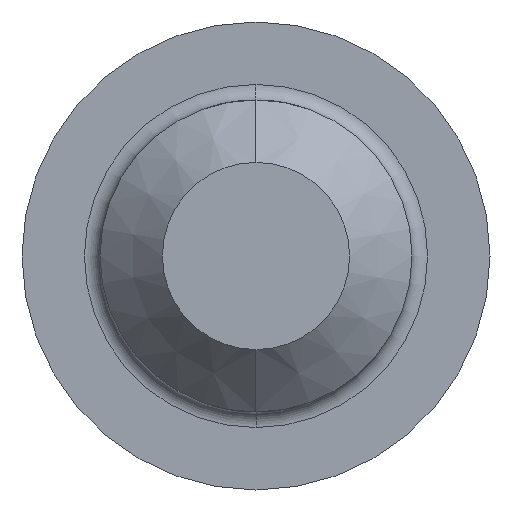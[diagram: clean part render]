
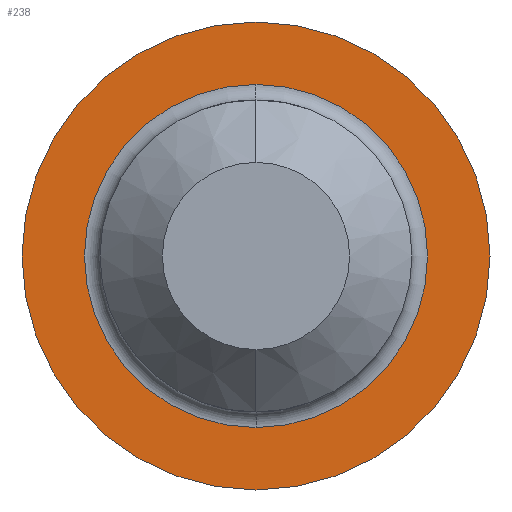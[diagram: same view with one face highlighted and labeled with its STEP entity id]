
A CAD part, left-side view. The second image highlights one B-rep face of the part: STEP entity #238.
In plain terms, the highlighted planar face has unit normal (-1, 0, 0).
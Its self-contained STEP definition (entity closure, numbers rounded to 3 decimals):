
#1 = CIRCLE ( 'NONE', #77, 4.5 ) ;
#73 = DIRECTION ( 'NONE',  ( 0., 0., 1. ) ) ;
#74 = DIRECTION ( 'NONE',  ( -1., 0., 0. ) ) ;
#75 = CARTESIAN_POINT ( 'NONE',  ( 0., 0., 4.5 ) ) ;
#76 = CARTESIAN_POINT ( 'NONE',  ( 0., 0., 0. ) ) ;
#77 = AXIS2_PLACEMENT_3D ( 'NONE', #76, #74, #73 ) ;
#104 = DIRECTION ( 'NONE',  ( 0., 0., -1. ) ) ;
#110 = VERTEX_POINT ( 'NONE', #247 ) ;
#125 = EDGE_CURVE ( 'NONE', #149, #141, #217, .T. ) ;
#141 = VERTEX_POINT ( 'NONE', #298 ) ;
#149 = VERTEX_POINT ( 'NONE', #287 ) ;
#181 = FACE_OUTER_BOUND ( 'NONE', #242, .T. ) ;
#183 = FACE_BOUND ( 'NONE', #255, .T. ) ;
#217 = CIRCLE ( 'NONE', #325, 3.3 ) ;
#238 = ADVANCED_FACE ( 'NONE', ( #183, #181 ), #450, .F. ) ;
#239 = ORIENTED_EDGE ( 'NONE', *, *, #125, .T. ) ;
#240 = EDGE_CURVE ( 'NONE', #141, #149, #504, .T. ) ;
#242 = EDGE_LOOP ( 'NONE', ( #252, #316 ) ) ;
#247 = CARTESIAN_POINT ( 'NONE',  ( 0., 0., -4.5 ) ) ;
#252 = ORIENTED_EDGE ( 'NONE', *, *, #348, .T. ) ;
#255 = EDGE_LOOP ( 'NONE', ( #312, #239 ) ) ;
#287 = CARTESIAN_POINT ( 'NONE',  ( 0., 0., 3.3 ) ) ;
#298 = CARTESIAN_POINT ( 'NONE',  ( 0., 0., -3.3 ) ) ;
#310 = EDGE_CURVE ( 'NONE', #110, #349, #519, .T. ) ;
#312 = ORIENTED_EDGE ( 'NONE', *, *, #240, .T. ) ;
#316 = ORIENTED_EDGE ( 'NONE', *, *, #310, .T. ) ;
#323 = DIRECTION ( 'NONE',  ( 0., 0., -1. ) ) ;
#324 = DIRECTION ( 'NONE',  ( 1., 0., 0. ) ) ;
#325 = AXIS2_PLACEMENT_3D ( 'NONE', #330, #324, #323 ) ;
#330 = CARTESIAN_POINT ( 'NONE',  ( 0., 0., 0. ) ) ;
#348 = EDGE_CURVE ( 'NONE', #349, #110, #1, .T. ) ;
#349 = VERTEX_POINT ( 'NONE', #75 ) ;
#449 = CARTESIAN_POINT ( 'NONE',  ( 0., 4.5, 0. ) ) ;
#450 = PLANE ( 'NONE',  #456 ) ;
#455 = DIRECTION ( 'NONE',  ( 1., 0., 0. ) ) ;
#456 = AXIS2_PLACEMENT_3D ( 'NONE', #449, #455, #104 ) ;
#481 = CARTESIAN_POINT ( 'NONE',  ( 0., 0., 0. ) ) ;
#488 = DIRECTION ( 'NONE',  ( 0., 0., -1. ) ) ;
#489 = AXIS2_PLACEMENT_3D ( 'NONE', #481, #507, #488 ) ;
#504 = CIRCLE ( 'NONE', #489, 3.3 ) ;
#507 = DIRECTION ( 'NONE',  ( 1., 0., 0. ) ) ;
#516 = DIRECTION ( 'NONE',  ( -1., 0., 0. ) ) ;
#517 = CARTESIAN_POINT ( 'NONE',  ( 0., 0., 0. ) ) ;
#519 = CIRCLE ( 'NONE', #532, 4.5 ) ;
#525 = DIRECTION ( 'NONE',  ( 0., 0., 1. ) ) ;
#532 = AXIS2_PLACEMENT_3D ( 'NONE', #517, #516, #525 ) ;
